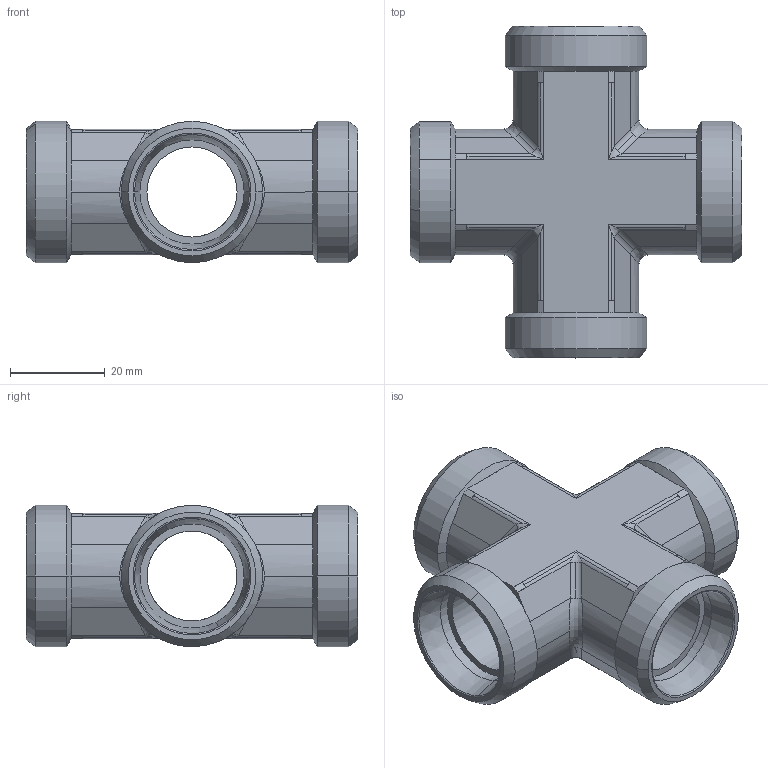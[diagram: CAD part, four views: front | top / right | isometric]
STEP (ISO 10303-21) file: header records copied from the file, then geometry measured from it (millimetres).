
FILE_DESCRIPTION((''),'2;1');
FILE_NAME('104010.stp','2007-10-31T13:15:44',(''),(''),'AutoCAD STEP 2000i','AutoCAD 2000i',', , ');
FILE_SCHEMA(('CONFIG_CONTROL_DESIGN'));
Length unit declared in the file: millimetre
Products named in the file (2): 104010.0; 3093#0
Assembly tree (1 placements, depth 2):
  104010.0
    3093#0
Bounding box: 70 x 70 x 29.82 mm (x, y, z)
Volume: 33425.7 mm3; surface area: 18175.4 mm2
Topology: 1 solids, 1 shells, 208 faces, 530 edges, 318 vertices
Faces by surface type: cylinder 106, plane 58, cone 24, bspline 20
Entity records: 7859 total; most frequent: CARTESIAN_POINT 2578, DIRECTION 1214, ORIENTED_EDGE 1044, EDGE_CURVE 522, AXIS2_PLACEMENT_3D 502, VERTEX_POINT 318, CIRCLE 254, EDGE_LOOP 216
